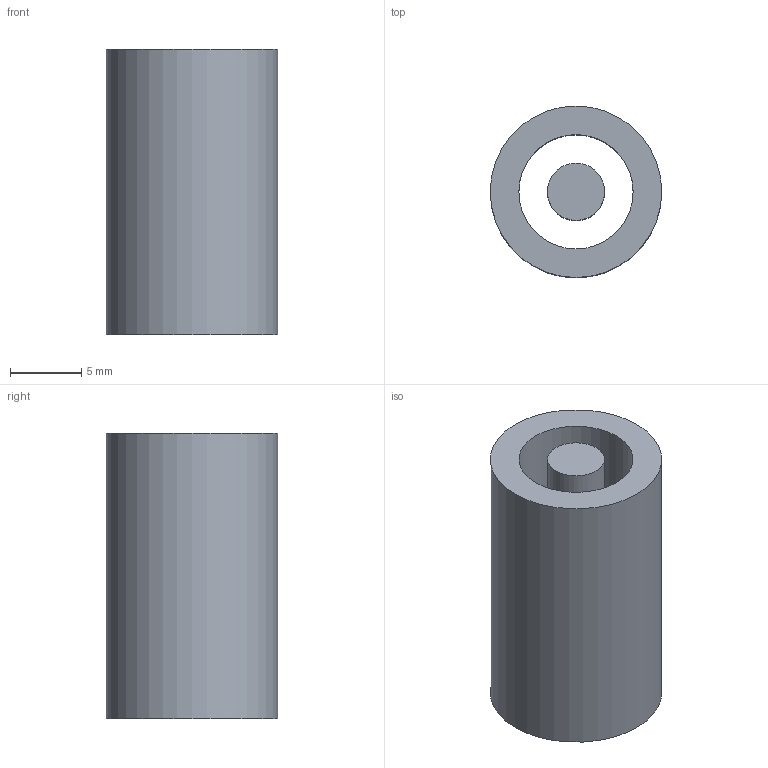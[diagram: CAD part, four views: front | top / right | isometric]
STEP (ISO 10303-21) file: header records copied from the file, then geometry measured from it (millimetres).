
FILE_DESCRIPTION(('Open CASCADE Model'),'2;1');
FILE_NAME('Open CASCADE Shape Model','2026-10-28T05:15:08',('Author'),( 'Open CASCADE'),'Open CASCADE STEP processor 7.8','Open CASCADE 7.8' ,'Unknown');
FILE_SCHEMA(('AUTOMOTIVE_DESIGN { 1 0 10303 214 1 1 1 1 }'));
Length unit declared in the file: millimetre
Products named in the file (3): radius-4mm; chamber-body; reference-probe
Assembly tree (2 placements, depth 2):
  radius-4mm
    chamber-body
    reference-probe
Bounding box: 12 x 12 x 20 mm (x, y, z)
Volume: 1508 mm3; surface area: 1658.8 mm2
Topology: 2 solids, 2 shells, 7 faces, 9 edges, 6 vertices
Faces by surface type: plane 4, cylinder 3
Full cylindrical faces by diameter (mm): 4 x1, 8 x1, 12 x1
Entity records: 332 total; most frequent: DIRECTION 53, CARTESIAN_POINT 43, ORIENTED_EDGE 18, PCURVE 18, DEFINITIONAL_REPRESENTATION 18, AXIS2_PLACEMENT_3D 16, LINE 15, VECTOR 15
